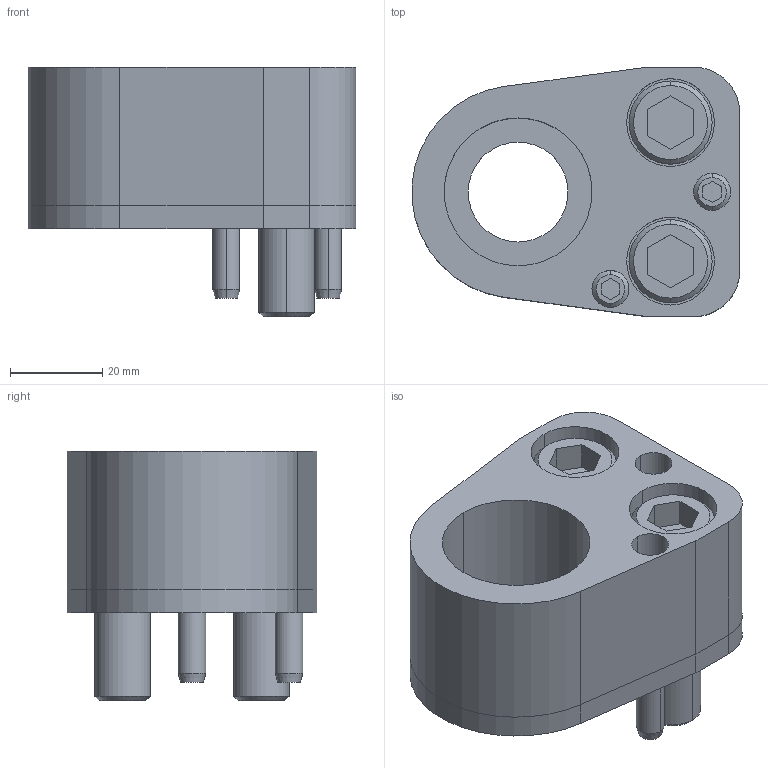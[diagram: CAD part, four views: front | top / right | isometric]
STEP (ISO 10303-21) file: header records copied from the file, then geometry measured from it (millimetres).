
FILE_DESCRIPTION(/* description */ (''),/* implementation_level */ '2;1');
FILE_NAME(/* name */ '3d_dp-ad32_02815_r00.stp',/* time_stamp */ '2011-01-10T14:15:59+09:00',/* author */ ('MISUMI'),/* organization */ (''),/* preprocessor_version */ 'ST-DEVELOPER v11',/* originating_system */ 'UGS - NX 5.0',/* authorisation */ '');
FILE_SCHEMA (('CONFIG_CONTROL_DESIGN'));
Length unit declared in the file: millimetre
Products named in the file (1): 3d_dp-ad32_02815_r00
Bounding box: 70.92 x 54 x 54 mm (x, y, z)
Volume: 87334.9 mm3; surface area: 32997.7 mm2
Topology: 8 solids, 8 shells, 155 faces, 346 edges, 222 vertices
Faces by surface type: plane 67, cylinder 62, cone 26
Entity records: 4480 total; most frequent: DIRECTION 804, CARTESIAN_POINT 778, ORIENTED_EDGE 692, EDGE_CURVE 346, AXIS2_PLACEMENT_3D 306, VERTEX_POINT 222, LINE 192, VECTOR 192
